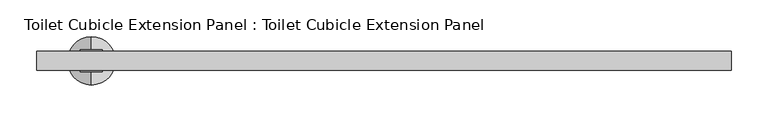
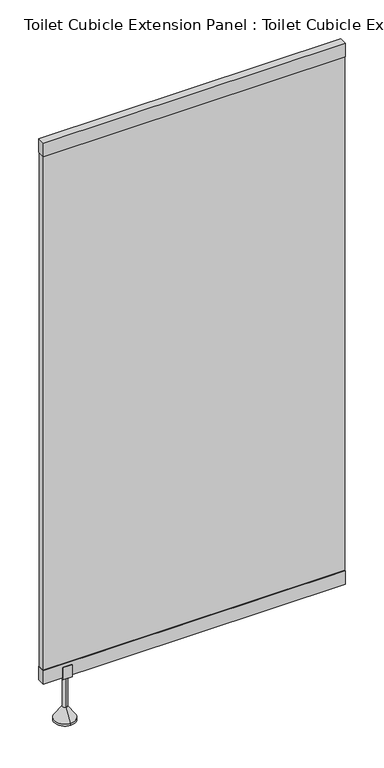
"""IFC4 building model written with IfcOpenShell, lengths in millimetres: proxy geometry, Toilet Cubicle Extension Panel : Toilet Cubicle Extension Panel."""

from ifc_helpers import new_model, si_unit, frame, origin, place, context, project, spatial, polyline, circle_curve, outline, extrude, source, transform, mapped, element, save
from ifc_brep_helpers import plane_surface, cylinder_surface, revolved_surface, advanced_brep


def toilet_cubicle_extension_panel_toilet_cubicle_extension_87c51e1a(model_context):
    return source(origin(), model_context, "Body", "SolidModel", [
        extrude(outline(polyline([(-1785.0, 145.0), (-1815.0, 145.0), (-1815.0, 185.0), (-1810.0, 185.0), (-1810.0, 150.0), (-1790.0, 150.0), (-1790.0, 185.0), (-1785.0, 185.0), (-1785.0, 145.0)])), frame((457.9310706, 0.0, 0.0), z_axis=(1.0, 0.0, 0.0), x_axis=(0.0, 1.0, 0.0)), (0.0, 0.0, 1.0), 30.0),
        advanced_brep(
        [(472.9310706, -1832.9430575, 7.2339182), (472.9310706, -1767.0569425, 7.2339182), (472.9310706, -1792.5, 43.57037), (472.9310706, -1807.5, 43.57037), (472.9310706, -1832.9430575, 0.0), (472.9310706, -1767.0569425, 0.0), (472.9310706, -1800.0, 0.0), (472.9310706, -1807.5, 145.0), (472.9310706, -1792.5, 145.0), (472.9310706, -1800.0, 145.0)],
        [
            (0, 1, circle_curve(frame((472.9310706, -1800.0, 7.2339182), z_axis=(0.0, 0.0, 1.0), x_axis=(0.0, 1.0, 0.0)), 32.9430575)),
            (1, 2),
            (2, 3, circle_curve(frame((472.9310706, -1800.0, 43.57037), z_axis=(0.0, 0.0, -1.0), x_axis=(0.0, 1.0, 0.0)), 7.5)),
            (3, 0),
            (1, 0, circle_curve(frame((472.9310706, -1800.0, 7.2339182), z_axis=(0.0, 0.0, 1.0), x_axis=(0.0, 1.0, 0.0)), 32.9430575)),
            (3, 2, circle_curve(frame((472.9310706, -1800.0, 43.57037), z_axis=(0.0, 0.0, -1.0), x_axis=(0.0, 1.0, 0.0)), 7.5)),
            (4, 5, circle_curve(frame((472.9310706, -1800.0, 0.0), z_axis=(0.0, 0.0, 1.0), x_axis=(0.0, 1.0, 0.0)), 32.9430575)),
            (5, 1),
            (0, 4),
            (5, 4, circle_curve(frame((472.9310706, -1800.0, 0.0), z_axis=(0.0, 0.0, 1.0), x_axis=(0.0, 1.0, 0.0)), 32.9430575)),
            (6, 5),
            (4, 6),
            (7, 8, circle_curve(frame((472.9310706, -1800.0, 145.0), z_axis=(0.0, 0.0, 1.0), x_axis=(0.0, 1.0, 0.0)), 7.5)),
            (8, 9),
            (9, 7),
            (8, 7, circle_curve(frame((472.9310706, -1800.0, 145.0), z_axis=(0.0, 0.0, 1.0), x_axis=(0.0, 1.0, 0.0)), 7.5)),
            (2, 8),
            (7, 3),
        ],
        [
            revolved_surface(polyline([(472.9310706, -1792.5, 43.57037), (472.9310706, -1767.0569425, 7.2339182)]), (472.9310706, -1800.0, -60.0), (0.0, 0.0, -1.0)),
            cylinder_surface(frame((472.9310706, -1800.0, -60.0), z_axis=(0.0, 0.0, -1.0), x_axis=(0.0, 1.0, 0.0)), 32.9430575),
            plane_surface(frame((472.9310706, -1800.0, 0.0), z_axis=(0.0, 0.0, -1.0), x_axis=(0.0, 1.0, 0.0))),
            plane_surface(frame((472.9310706, -1800.0, 145.0), z_axis=(0.0, 0.0, 1.0), x_axis=(0.0, 1.0, 0.0))),
            cylinder_surface(frame((472.9310706, -1800.0, -60.0), z_axis=(0.0, 0.0, -1.0), x_axis=(0.0, 1.0, 0.0)), 7.5),
        ],
        [
            (0, [[1, 2, 3, 4]]),
            (0, [[5, -4, 6, -2]]),
            (1, [[7, 8, -1, 9]]),
            (1, [[10, -9, -5, -8]]),
            (2, [[11, -7, 12]]),
            (2, [[-12, -10, -11]]),
            (3, [[13, 14, 15]]),
            (3, [[16, -15, -14]]),
            (4, [[-3, 17, -13, 18]]),
            (4, [[-6, -18, -16, -17]]),
        ],
    ),
        extrude(outline(polyline([(1347.9310705, -1813.0), (397.9310706, -1813.0), (397.9310706, -1787.2947936), (1347.9310705, -1787.2947936), (1347.9310705, -1813.0)])), frame((0.0, 0.0, 1905.0), z_axis=(0.0, 0.0, 1.0), x_axis=(1.0, 0.0, 0.0)), (0.0, 0.0, 1.0), 45.0),
        extrude(outline(polyline([(1347.9310705, -1813.0), (397.9310706, -1813.0), (397.9310706, -1787.2947936), (1347.9310705, -1787.2947936), (1347.9310705, -1813.0)])), frame((0.0, 0.0, 150.0), z_axis=(0.0, 0.0, 1.0), x_axis=(1.0, 0.0, 0.0)), (0.0, 0.0, 1.0), 45.0),
        extrude(outline(polyline([(397.9310706, -1810.0), (397.9310706, -1790.0), (1347.9310705, -1790.0), (1347.9310705, -1810.0), (397.9310706, -1810.0)])), frame((0.0, 0.0, 195.0), z_axis=(0.0, 0.0, 1.0), x_axis=(1.0, 0.0, 0.0)), (0.0, 0.0, 1.0), 1710.0),
    ])


if __name__ == "__main__":
    model = new_model("IFC4")
    model_context = context("Model", 3, world=origin())
    ifc_project = project(units=[si_unit("LENGTHUNIT", "METRE", prefix="MILLI")], contexts=[model_context])
    site = spatial("IfcSite", under=ifc_project)
    building = spatial("IfcBuilding", under=site)
    placement = place(None, origin())
    toilet_cubicle_extension_panel_toilet_cubicle_extension_shape = toilet_cubicle_extension_panel_toilet_cubicle_extension_87c51e1a(model_context)
    element("IfcBuildingElementProxy", 1, Name="Toilet Cubicle Extension Panel : Toilet Cubicle Extension Panel", ObjectType="Toilet Cubicle Extension Panel : Toilet Cubicle Extension Panel", at=placement, inside=building, context=model_context, shape_type="MappedRepresentation", body=[
        mapped(toilet_cubicle_extension_panel_toilet_cubicle_extension_shape, transform((0.0, 0.0, 0.0), x_axis=(1.0, 0.0, 0.0), y_axis=(0.0, 1.0, 0.0), z_axis=(0.0, 0.0, 1.0))),
    ])
    save(model, "model.ifc")
